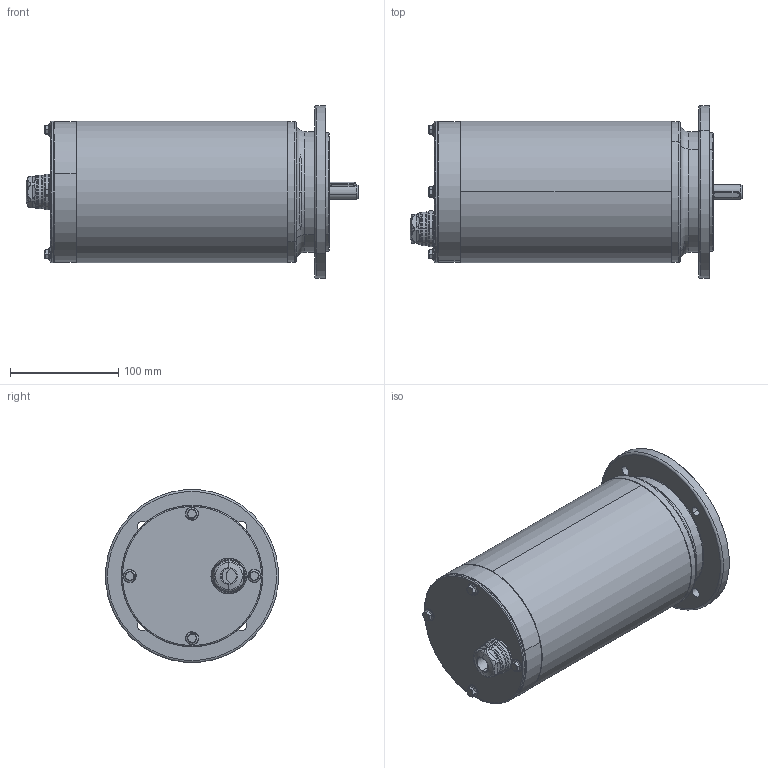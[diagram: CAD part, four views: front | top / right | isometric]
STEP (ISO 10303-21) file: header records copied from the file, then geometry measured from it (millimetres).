
FILE_DESCRIPTION(('STEP AP203'),'1');
FILE_NAME('71B4 B5.stp','2016-11-02T02:53:56',(' '),(' '),'Spatial InterOp 3D',' ',' ');
FILE_SCHEMA(('CONFIG_CONTROL_DESIGN'));
Length unit declared in the file: millimetre
Products named in the file (6): 71B4 B5; NAUO1
Assembly tree (5 placements, depth 2):
  71B4 B5
    NAUO1
    NAUO1
    NAUO1
    NAUO1
    NAUO1
Bounding box: 306.6 x 159.39 x 159.39 mm (x, y, z)
Volume: 3044132.8 mm3; surface area: 225545.7 mm2
Topology: 5 solids, 11 shells, 661 faces, 1511 edges, 884 vertices
Faces by surface type: cylinder 185, torus 146, plane 118, bspline 109, cone 95, sphere 8
Entity records: 24316 total; most frequent: CARTESIAN_POINT 9861, DIRECTION 3020, ORIENTED_EDGE 2966, EDGE_CURVE 1483, AXIS2_PLACEMENT_3D 1340, VERTEX_POINT 884, CIRCLE 782, EDGE_LOOP 729
